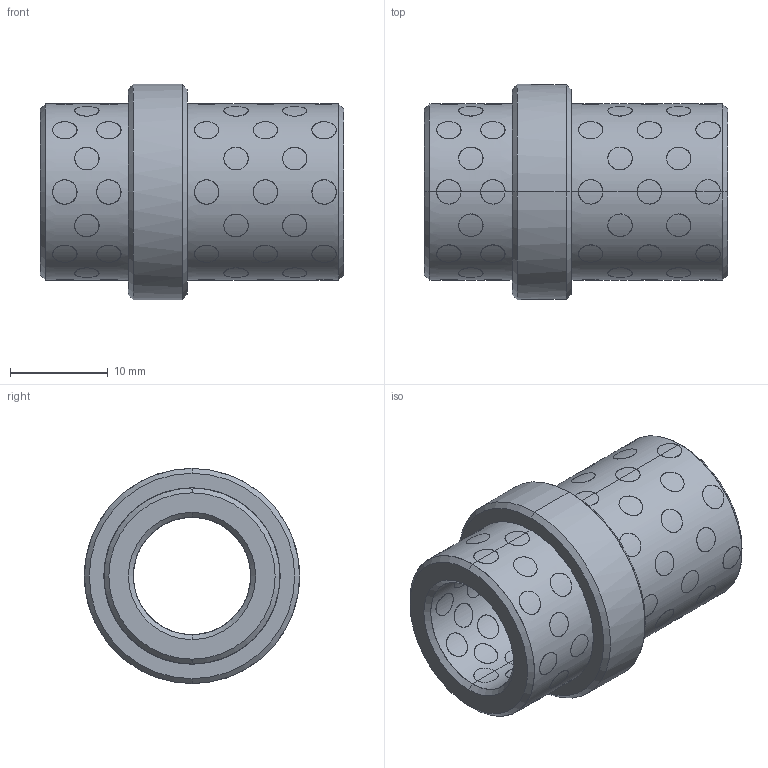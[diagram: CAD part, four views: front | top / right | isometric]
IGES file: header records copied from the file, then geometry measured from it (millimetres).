
Start section: START RECORD GO HERE.
Global section: file name: G4021222.igs; native system: DASSAULT SYSTEMES CATIA V5 R20 - www.3ds.com; preprocessor: CATIA Version 5 Release 20 ; author: r.borello; organization: CFTORINO; date: 20190624.144157; units: millimetre
Bounding box: 31 x 22 x 22 mm (x, y, z)
Surface area: 6456.1 mm2 (no closed solid volume)
Topology: 0 solids, 0 shells, 428 faces, 1872 edges, 1872 vertices
Faces by surface type: revolution 424, plane 4
